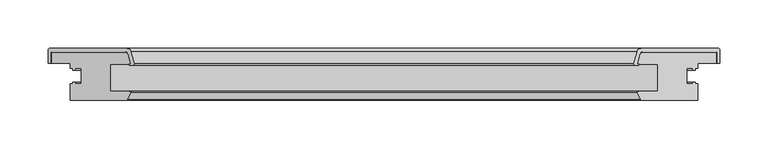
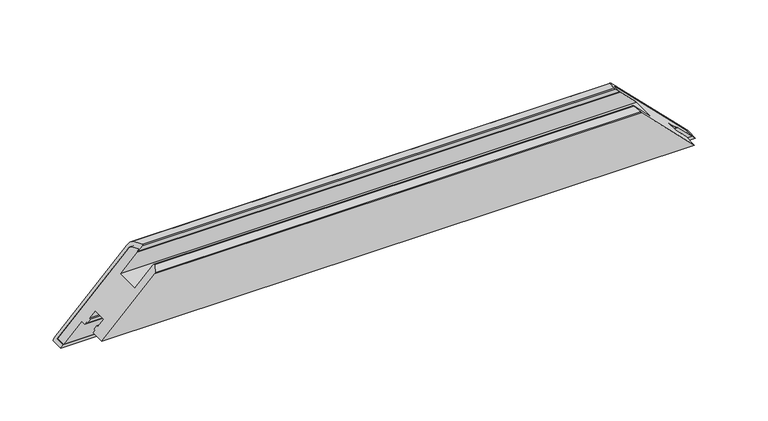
"""IFC4 building model written with IfcOpenShell, lengths in millimetres: proxy geometry, Weiku - Montante - Folha 02.2.01.018 : Weiku - Montante - Folha 02.2.01.018."""

from ifc_helpers import new_model, si_unit, frame, origin, place, context, project, spatial, polyline, ellipse_curve, source, transform, mapped, element, save
from ifc_brep_helpers import plane_surface, cylinder_surface, revolved_surface, advanced_brep


def generic_models_8d907b51(model_context):
    return source(origin(), model_context, "Body", "AdvancedBrep", [
        advanced_brep(
        [(345.25, 50.0, 0.0), (268.2497332, 50.0, 77.0002668), (-268.2497332, 50.0, 77.0002668), (-345.25, 50.0, 0.0), (265.3519557, 47.7764571, 79.8980443), (-265.3519557, 47.7764571, 79.8980443), (262.7670371, 38.1294095, 82.4829629), (-262.7670371, 38.1294095, 82.4829629), (263.25, 37.5, 82.0), (-263.25, 37.5, 82.0), (264.1060102, 37.5, 81.1439898), (-264.1060102, 37.5, 81.1439898), (264.1060102, 36.5, 81.1439898), (-264.1060102, 36.5, 81.1439898), (259.4925588, 36.5, 85.7574412), (-259.4925588, 36.5, 85.7574412), (258.5266329, 37.758819, 86.7233671), (-258.5266329, 37.758819, 86.7233671), (261.8854501, 50.2940952, 83.3645499), (-261.8854501, 50.2940952, 83.3645499), (266.7150792, 54.0, 78.5349208), (-266.7150792, 54.0, 78.5349208), (346.25, 54.0, -1.0), (-346.25, 54.0, -1.0), (348.25, 52.0, -3.0), (-348.25, 52.0, -3.0), (348.25, 38.5, -3.0), (-348.25, 38.5, -3.0), (345.25, 38.5, 0.0), (-345.25, 38.5, 0.0)],
        [
            (0, 1),
            (1, 2),
            (2, 3),
            (3, 0),
            (1, 4, ellipse_curve(frame((268.2497332, 47.0, 77.0002668), z_axis=(0.7071067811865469, 0.0, 0.7071067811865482), x_axis=(0.707106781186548, 0.0, -0.7071067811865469)), 4.2426407, 3.0)),
            (4, 5),
            (5, 2, ellipse_curve(frame((-268.2497332, 47.0, 77.0002668), z_axis=(-0.7071067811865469, 0.0, 0.7071067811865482), x_axis=(0.707106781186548, 0.0, 0.7071067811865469)), 4.2426407, 3.0)),
            (4, 6),
            (6, 7),
            (7, 5),
            (6, 8, ellipse_curve(frame((263.25, 38.0, 82.0), z_axis=(0.7071067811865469, 0.0, 0.7071067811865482), x_axis=(0.707106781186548, 0.0, -0.7071067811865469)), 0.7071068, 0.5)),
            (8, 9),
            (9, 7, ellipse_curve(frame((-263.25, 38.0, 82.0), z_axis=(-0.7071067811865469, 0.0, 0.7071067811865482), x_axis=(0.707106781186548, 0.0, 0.7071067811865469)), 0.7071068, 0.5)),
            (8, 10),
            (10, 11),
            (11, 9),
            (10, 12, ellipse_curve(frame((264.1060102, 37.0, 81.1439898), z_axis=(-0.7071067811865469, 0.0, -0.7071067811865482), x_axis=(-0.707106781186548, 0.0, 0.7071067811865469)), 0.7071068, 0.5)),
            (12, 13),
            (13, 11, ellipse_curve(frame((-264.1060102, 37.0, 81.1439898), z_axis=(0.7071067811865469, 0.0, -0.7071067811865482), x_axis=(-0.707106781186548, 0.0, -0.7071067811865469)), 0.7071068, 0.5)),
            (12, 14),
            (14, 15),
            (15, 13),
            (14, 16, ellipse_curve(frame((259.4925588, 37.5, 85.7574412), z_axis=(-0.7071067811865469, 0.0, -0.7071067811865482), x_axis=(-0.707106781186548, 0.0, 0.7071067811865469)), 1.4142136, 1.0)),
            (16, 17),
            (17, 15, ellipse_curve(frame((-259.4925588, 37.5, 85.7574412), z_axis=(0.7071067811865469, 0.0, -0.7071067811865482), x_axis=(-0.707106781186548, 0.0, -0.7071067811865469)), 1.4142136, 1.0)),
            (16, 18),
            (18, 19),
            (19, 17),
            (18, 20, ellipse_curve(frame((266.7150792, 49.0, 78.5349208), z_axis=(-0.7071067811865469, 0.0, -0.7071067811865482), x_axis=(-0.707106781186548, 0.0, 0.7071067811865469)), 7.0710678, 5.0)),
            (20, 21),
            (21, 19, ellipse_curve(frame((-266.7150792, 49.0, 78.5349208), z_axis=(0.7071067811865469, 0.0, -0.7071067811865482), x_axis=(-0.707106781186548, 0.0, -0.7071067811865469)), 7.0710678, 5.0)),
            (20, 22),
            (22, 23),
            (23, 21),
            (22, 24, ellipse_curve(frame((346.25, 52.0, -1.0), z_axis=(-0.7071067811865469, 0.0, -0.7071067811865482), x_axis=(-0.707106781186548, 0.0, 0.7071067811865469)), 2.8284271, 2.0)),
            (24, 25),
            (25, 23, ellipse_curve(frame((-346.25, 52.0, -1.0), z_axis=(0.7071067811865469, 0.0, -0.7071067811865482), x_axis=(-0.707106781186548, 0.0, -0.7071067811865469)), 2.8284271, 2.0)),
            (24, 26),
            (26, 27),
            (27, 25),
            (26, 28),
            (28, 29),
            (29, 27),
            (28, 0),
            (3, 29),
        ],
        [
            plane_surface(frame((-365.25, 50.0, 0.0), z_axis=(0.0, -1.0, 0.0), x_axis=(1.0, 0.0, 0.0))),
            revolved_surface(polyline([(271.24973320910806, 50.0, 77.0002668), (-271.24973320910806, 50.0, 77.0002668)]), (-365.25, 47.0, 77.0002668), (1.0, 0.0, 0.0)),
            plane_surface(frame((-365.25, 47.7764571, 79.8980443), z_axis=(0.0, -0.2588190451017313, -0.9659258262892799), x_axis=(1.0, 0.0, 0.0))),
            revolved_surface(polyline([(263.75000001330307, 38.5, 82.0), (-263.7500000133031, 38.5, 82.0)]), (-365.25, 38.0, 82.0), (1.0, 0.0, 0.0)),
            plane_surface(frame((-365.25, 37.5, 82.0), z_axis=(0.0, 1.0, 0.0), x_axis=(1.0, 0.0, 0.0))),
            cylinder_surface(frame((-365.25, 37.0, 81.1439898), z_axis=(-1.0, 0.0, 0.0), x_axis=(0.0, 1.0, 0.0)), 0.5),
            plane_surface(frame((-365.25, 36.5, 81.1439898), z_axis=(0.0, -1.0, 0.0), x_axis=(1.0, 0.0, 0.0))),
            cylinder_surface(frame((-365.25, 37.5, 85.7574412), z_axis=(-1.0, 0.0, 0.0), x_axis=(0.0, 1.0, 0.0)), 1.0),
            plane_surface(frame((-365.25, 37.758819, 86.7233671), z_axis=(0.0, 0.25881904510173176, 0.9659258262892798), x_axis=(1.0, 0.0, 0.0))),
            cylinder_surface(frame((-365.25, 49.0, 78.5349208), z_axis=(-1.0, 0.0, 0.0), x_axis=(0.0, 1.0, 0.0)), 5.0),
            plane_surface(frame((-365.25, 54.0, 78.5349208), z_axis=(0.0, 1.0, 0.0), x_axis=(1.0, 0.0, 0.0))),
            cylinder_surface(frame((-365.25, 52.0, -1.0), z_axis=(-1.0, 0.0, 0.0), x_axis=(0.0, 1.0, 0.0)), 2.0),
            plane_surface(frame((-365.25, 52.0, -3.0), z_axis=(0.0, 0.0, -1.0), x_axis=(1.0, 0.0, 0.0))),
            plane_surface(frame((-365.25, 38.5, -3.0), z_axis=(0.0, -1.0, 0.0), x_axis=(1.0, 0.0, 0.0))),
            plane_surface(frame((-365.25, 38.5, 0.0), z_axis=(0.0, 0.0, 1.0), x_axis=(1.0, 0.0, 0.0))),
            plane_surface(frame((255.25, 0.0, 90.0), z_axis=(0.7071067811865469, 0.0, 0.7071067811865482), x_axis=(0.0, 1.0, 0.0))),
            plane_surface(frame((-373.5342712, 0.0, -28.2842712), z_axis=(-0.7071067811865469, 0.0, 0.7071067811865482), x_axis=(0.0, 1.0, 0.0))),
        ],
        [
            (0, [[1, 2, 3, 4]]),
            (1, [[5, 6, 7, -2]]),
            (2, [[8, 9, 10, -6]]),
            (3, [[11, 12, 13, -9]]),
            (4, [[14, 15, 16, -12]]),
            (5, [[17, 18, 19, -15]]),
            (6, [[20, 21, 22, -18]]),
            (7, [[23, 24, 25, -21]]),
            (8, [[26, 27, 28, -24]]),
            (9, [[29, 30, 31, -27]]),
            (10, [[32, 33, 34, -30]]),
            (11, [[35, 36, 37, -33]]),
            (12, [[38, 39, 40, -36]]),
            (13, [[41, 42, 43, -39]]),
            (14, [[44, -4, 45, -42]]),
            (15, [[-1, -44, -41, -38, -35, -32, -29, -26, -23, -20, -17, -14, -11, -8, -5]]),
            (16, [[-3, -7, -10, -13, -16, -19, -22, -25, -28, -31, -34, -37, -40, -43, -45]]),
        ],
    ),
        advanced_brep(
        [(345.25, 50.0, 0.0), (-345.25, 50.0, 0.0), (-268.2497332, 50.0, 77.0002668), (268.2497332, 50.0, 77.0002668), (345.25, 38.5, 0.0), (-345.25, 38.5, 0.0), (-267.2372264, 0.0, 78.0127736), (-325.25, 0.0, 20.0), (325.25, 0.0, 20.0), (267.2372264, 0.0, 78.0127736), (-325.25, 38.5, 20.0), (-325.25, 33.1, 20.0), (-323.05, 33.1, 22.2), (-323.05, 31.1, 22.2), (-320.25, 31.1, 25.0), (-320.25, 33.1, 25.0), (-313.75, 33.1, 31.5), (-313.75, 16.9, 31.5), (-320.25, 16.9, 25.0), (-320.25, 18.9, 25.0), (-323.05, 18.9, 22.2), (-323.05, 16.9, 22.2), (-325.25, 16.9, 20.0), (-266.3432657, 0.5518546, 78.9067343), (-262.8012796, 7.617411, 82.4487204), (-263.9634285, 9.5, 81.2865715), (-283.75, 9.5, 61.5), (-283.75, 37.5, 61.5), (-263.25, 37.5, 82.0), (-262.7670371, 38.1294095, 82.4829629), (-265.3519557, 47.7764571, 79.8980443), (265.3519557, 47.7764571, 79.8980443), (262.7670371, 38.1294095, 82.4829629), (263.25, 37.5, 82.0), (283.75, 37.5, 61.5), (283.75, 9.5, 61.5), (263.9634285, 9.5, 81.2865715), (262.8012796, 7.617411, 82.4487204), (266.3432657, 0.5518546, 78.9067343), (325.25, 16.9, 20.0), (323.05, 16.9, 22.2), (323.05, 18.9, 22.2), (320.25, 18.9, 25.0), (320.25, 16.9, 25.0), (313.75, 16.9, 31.5), (313.75, 33.1, 31.5), (320.25, 33.1, 25.0), (320.25, 31.1, 25.0), (323.05, 31.1, 22.2), (323.05, 33.1, 22.2), (325.25, 33.1, 20.0), (325.25, 38.5, 20.0)],
        [
            (0, 1),
            (1, 2),
            (2, 3),
            (3, 0),
            (0, 4),
            (4, 5),
            (5, 1),
            (6, 7),
            (7, 8),
            (8, 9),
            (9, 6),
            (5, 10),
            (10, 11),
            (11, 12),
            (12, 13),
            (13, 14),
            (14, 15),
            (15, 16),
            (16, 17),
            (17, 18),
            (18, 19),
            (19, 20),
            (20, 21),
            (21, 22),
            (22, 7),
            (6, 23, ellipse_curve(frame((-267.2372264, 1.0, 78.0127736), z_axis=(-0.7071067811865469, 0.0, 0.7071067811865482), x_axis=(-0.707106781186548, 0.0, -0.7071067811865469)), 1.4142136, 1.0)),
            (23, 24),
            (24, 25, ellipse_curve(frame((-263.9634285, 8.2, 81.2865715), z_axis=(-0.7071067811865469, 0.0, 0.7071067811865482), x_axis=(-0.707106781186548, 0.0, -0.7071067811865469)), 1.8384776, 1.3)),
            (25, 26),
            (26, 27),
            (27, 28),
            (28, 29, ellipse_curve(frame((-263.25, 38.0, 82.0), z_axis=(-0.7071067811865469, 0.0, 0.7071067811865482), x_axis=(-0.707106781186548, 0.0, -0.7071067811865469)), 0.7071068, 0.5)),
            (29, 30),
            (30, 2, ellipse_curve(frame((-268.2497332, 47.0, 77.0002668), z_axis=(-0.7071067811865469, 0.0, 0.7071067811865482), x_axis=(-0.707106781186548, 0.0, -0.7071067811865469)), 4.2426407, 3.0)),
            (3, 31, ellipse_curve(frame((268.2497332, 47.0, 77.0002668), z_axis=(0.7071067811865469, 0.0, 0.7071067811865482), x_axis=(-0.707106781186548, 0.0, 0.7071067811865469)), 4.2426407, 3.0)),
            (31, 32),
            (32, 33, ellipse_curve(frame((263.25, 38.0, 82.0), z_axis=(0.7071067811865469, 0.0, 0.7071067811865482), x_axis=(-0.707106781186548, 0.0, 0.7071067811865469)), 0.7071068, 0.5)),
            (33, 34),
            (34, 35),
            (35, 36),
            (36, 37, ellipse_curve(frame((263.9634285, 8.2, 81.2865715), z_axis=(0.7071067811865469, 0.0, 0.7071067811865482), x_axis=(-0.707106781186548, 0.0, 0.7071067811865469)), 1.8384776, 1.3)),
            (37, 38),
            (38, 9, ellipse_curve(frame((267.2372264, 1.0, 78.0127736), z_axis=(0.7071067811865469, 0.0, 0.7071067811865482), x_axis=(-0.707106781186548, 0.0, 0.7071067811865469)), 1.4142136, 1.0)),
            (8, 39),
            (39, 40),
            (40, 41),
            (41, 42),
            (42, 43),
            (43, 44),
            (44, 45),
            (45, 46),
            (46, 47),
            (47, 48),
            (48, 49),
            (49, 50),
            (50, 51),
            (51, 4),
            (38, 23),
            (37, 24),
            (36, 25),
            (35, 26),
            (34, 27),
            (33, 28),
            (32, 29),
            (31, 30),
            (51, 10),
            (50, 11),
            (49, 12),
            (48, 13),
            (47, 14),
            (46, 15),
            (45, 16),
            (44, 17),
            (43, 18),
            (42, 19),
            (41, 20),
            (40, 21),
            (39, 22),
        ],
        [
            plane_surface(frame((-345.25, 50.0, 77.0002668), z_axis=(0.0, 1.0, 0.0), x_axis=(1.0, 0.0, 0.0))),
            plane_surface(frame((-345.25, 50.0, 0.0), z_axis=(0.0, 0.0, -1.0), x_axis=(1.0, 0.0, 0.0))),
            plane_surface(frame((-345.25, 0.0, 20.0), z_axis=(0.0, -1.0, 0.0), x_axis=(1.0, 0.0, 0.0))),
            plane_surface(frame((-373.5342712, 0.0, -28.2842712), z_axis=(-0.7071067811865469, 0.0, 0.7071067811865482), x_axis=(0.0, 1.0, 0.0))),
            plane_surface(frame((255.25, 0.0, 90.0), z_axis=(0.7071067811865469, 0.0, 0.7071067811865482), x_axis=(0.0, 1.0, 0.0))),
            cylinder_surface(frame((-345.25, 1.0, 78.0127736), z_axis=(-1.0, 0.0, 0.0), x_axis=(0.0, 1.0, 0.0)), 1.0),
            plane_surface(frame((-345.25, 0.5518546, 78.9067343), z_axis=(0.0, -0.4481453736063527, 0.8939606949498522), x_axis=(1.0, 0.0, 0.0))),
            cylinder_surface(frame((-345.25, 8.2, 81.2865715), z_axis=(-1.0, 0.0, 0.0), x_axis=(0.0, 1.0, 0.0)), 1.3),
            plane_surface(frame((-345.25, 9.5, 81.2865715), z_axis=(0.0, 1.0, 0.0), x_axis=(1.0, 0.0, 0.0))),
            plane_surface(frame((-345.25, 9.5, 61.5), z_axis=(0.0, 0.0, 1.0), x_axis=(1.0, 0.0, 0.0))),
            plane_surface(frame((-345.25, 37.5, 61.5), z_axis=(0.0, -1.0, 0.0), x_axis=(1.0, 0.0, 0.0))),
            cylinder_surface(frame((-345.25, 38.0, 82.0), z_axis=(-1.0, 0.0, 0.0), x_axis=(0.0, 1.0, 0.0)), 0.5),
            plane_surface(frame((-345.25, 38.1294095, 82.4829629), z_axis=(0.0, 0.2588190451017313, 0.9659258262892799), x_axis=(1.0, 0.0, 0.0))),
            cylinder_surface(frame((-345.25, 47.0, 77.0002668), z_axis=(-1.0, 0.0, 0.0), x_axis=(0.0, 1.0, 0.0)), 3.0),
            plane_surface(frame((-345.25, 38.5, 0.0), z_axis=(0.0, -1.0, 0.0), x_axis=(1.0, 0.0, 0.0))),
            plane_surface(frame((-345.25, 38.5, 20.0), z_axis=(0.0, 0.0, -1.0), x_axis=(1.0, 0.0, 0.0))),
            plane_surface(frame((-345.25, 33.1, 20.0), z_axis=(0.0, -1.0, 0.0), x_axis=(1.0, 0.0, 0.0))),
            plane_surface(frame((-345.25, 33.1, 22.2), z_axis=(0.0, 0.0, -1.0), x_axis=(1.0, 0.0, 0.0))),
            plane_surface(frame((-345.25, 31.1, 22.2), z_axis=(0.0, -1.0, 0.0), x_axis=(1.0, 0.0, 0.0))),
            plane_surface(frame((-345.25, 31.1, 25.0), z_axis=(0.0, 0.0, 1.0), x_axis=(1.0, 0.0, 0.0))),
            plane_surface(frame((-345.25, 33.1, 25.0), z_axis=(0.0, -1.0, 0.0), x_axis=(1.0, 0.0, 0.0))),
            plane_surface(frame((-345.25, 33.1, 31.5), z_axis=(0.0, 0.0, -1.0), x_axis=(1.0, 0.0, 0.0))),
            plane_surface(frame((-345.25, 16.9, 31.5), z_axis=(0.0, 1.0, 0.0), x_axis=(1.0, 0.0, 0.0))),
            plane_surface(frame((-345.25, 16.9, 25.0), z_axis=(0.0, 0.0, 1.0), x_axis=(1.0, 0.0, 0.0))),
            plane_surface(frame((-345.25, 18.9, 25.0), z_axis=(0.0, 1.0, 0.0), x_axis=(1.0, 0.0, 0.0))),
            plane_surface(frame((-345.25, 18.9, 22.2), z_axis=(0.0, 0.0, -1.0), x_axis=(1.0, 0.0, 0.0))),
            plane_surface(frame((-345.25, 16.9, 22.2), z_axis=(0.0, 1.0, 0.0), x_axis=(1.0, 0.0, 0.0))),
            plane_surface(frame((-345.25, 16.9, 20.0), z_axis=(0.0, 0.0, -1.0), x_axis=(1.0, 0.0, 0.0))),
        ],
        [
            (0, [[1, 2, 3, 4]]),
            (1, [[-1, 5, 6, 7]]),
            (2, [[8, 9, 10, 11]]),
            (3, [[-2, -7, 12, 13, 14, 15, 16, 17, 18, 19, 20, 21, 22, 23, 24, 25, -8, 26, 27, 28, 29, 30, 31, 32, 33, 34]]),
            (4, [[-4, 35, 36, 37, 38, 39, 40, 41, 42, 43, -10, 44, 45, 46, 47, 48, 49, 50, 51, 52, 53, 54, 55, 56, 57, -5]]),
            (5, [[-26, -11, -43, 58]]),
            (6, [[-27, -58, -42, 59]]),
            (7, [[-28, -59, -41, 60]]),
            (8, [[-29, -60, -40, 61]]),
            (9, [[-30, -61, -39, 62]]),
            (10, [[-31, -62, -38, 63]]),
            (11, [[-32, -63, -37, 64]]),
            (12, [[-33, -64, -36, 65]]),
            (13, [[-34, -65, -35, -3]]),
            (14, [[-6, -57, 66, -12]]),
            (15, [[-13, -66, -56, 67]]),
            (16, [[-14, -67, -55, 68]]),
            (17, [[-15, -68, -54, 69]]),
            (18, [[-16, -69, -53, 70]]),
            (19, [[-17, -70, -52, 71]]),
            (20, [[-18, -71, -51, 72]]),
            (21, [[-19, -72, -50, 73]]),
            (22, [[-20, -73, -49, 74]]),
            (23, [[-21, -74, -48, 75]]),
            (24, [[-22, -75, -47, 76]]),
            (25, [[-23, -76, -46, 77]]),
            (26, [[-24, -77, -45, 78]]),
            (27, [[-25, -78, -44, -9]]),
        ],
    ),
    ])


if __name__ == "__main__":
    model = new_model("IFC4")
    model_context = context("Model", 3, world=origin())
    ifc_project = project(units=[si_unit("LENGTHUNIT", "METRE", prefix="MILLI")], contexts=[model_context])
    site = spatial("IfcSite", under=ifc_project)
    building = spatial("IfcBuilding", under=site)
    placement = place(None, origin())
    generic_models_shape = generic_models_8d907b51(model_context)
    element("IfcBuildingElementProxy", 1, Name="Weiku - Montante - Folha 02.2.01.018 : Weiku - Montante - Folha 02.2.01.018", ObjectType="Weiku - Montante - Folha 02.2.01.018 : Weiku - Montante - Folha 02.2.01.018", at=placement, inside=building, context=model_context, shape_type="MappedRepresentation", body=[
        mapped(generic_models_shape, transform((0.0, 0.0, 0.0), x_axis=(1.0, 0.0, 0.0), y_axis=(0.0, 1.0, 0.0), z_axis=(0.0, 0.0, 1.0))),
    ])
    save(model, "model.ifc")
